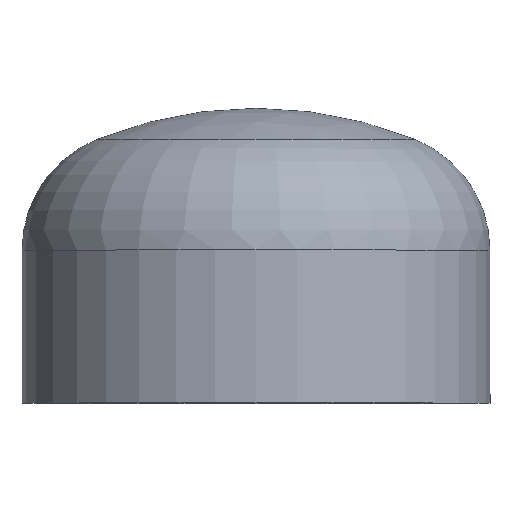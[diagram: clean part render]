
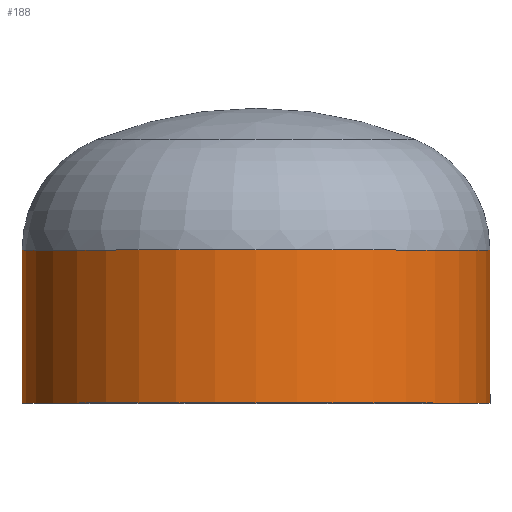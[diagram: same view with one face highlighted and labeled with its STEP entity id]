
A CAD part, top view. The second image highlights one B-rep face of the part: STEP entity #188.
In plain terms, the highlighted cylindrical face has radius 84.15 mm (diameter 168.3 mm), a partial arc.
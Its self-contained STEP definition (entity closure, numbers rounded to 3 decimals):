
#3 = EDGE_LOOP ( 'NONE', ( #118, #73, #372, #59 ) ) ;
#37 = AXIS2_PLACEMENT_3D ( 'NONE', #210, #367, #239 ) ;
#59 = ORIENTED_EDGE ( 'NONE', *, *, #394, .F. ) ;
#73 = ORIENTED_EDGE ( 'NONE', *, *, #171, .T. ) ;
#75 = VERTEX_POINT ( 'NONE', #278 ) ;
#103 = AXIS2_PLACEMENT_3D ( 'NONE', #274, #249, #246 ) ;
#112 = AXIS2_PLACEMENT_3D ( 'NONE', #384, #402, #316 ) ;
#118 = ORIENTED_EDGE ( 'NONE', *, *, #208, .T. ) ;
#126 = VERTEX_POINT ( 'NONE', #240 ) ;
#128 = VERTEX_POINT ( 'NONE', #238 ) ;
#171 = EDGE_CURVE ( 'NONE', #126, #295, #343, .T. ) ;
#181 = CIRCLE ( 'NONE', #37, 84.15 ) ;
#188 = ADVANCED_FACE ( 'NONE', ( #333 ), #324, .T. ) ;
#208 = EDGE_CURVE ( 'NONE', #75, #126, #212, .T. ) ;
#210 = CARTESIAN_POINT ( 'NONE',  ( 0., 0., 0. ) ) ;
#212 = CIRCLE ( 'NONE', #103, 84.15 ) ;
#215 = CARTESIAN_POINT ( 'NONE',  ( 84.15, 0., 0. ) ) ;
#229 = DIRECTION ( 'NONE',  ( 0., -1., 0. ) ) ;
#238 = CARTESIAN_POINT ( 'NONE',  ( 84.15, 0., 0. ) ) ;
#239 = DIRECTION ( 'NONE',  ( 1., 0., 0. ) ) ;
#240 = CARTESIAN_POINT ( 'NONE',  ( -84.15, 55., 0. ) ) ;
#246 = DIRECTION ( 'NONE',  ( 1., 0., 0. ) ) ;
#249 = DIRECTION ( 'NONE',  ( 0., -1., 0. ) ) ;
#274 = CARTESIAN_POINT ( 'NONE',  ( 0., 55., 0. ) ) ;
#278 = CARTESIAN_POINT ( 'NONE',  ( 84.15, 55., 0. ) ) ;
#286 = VECTOR ( 'NONE', #370, 1000. ) ;
#295 = VERTEX_POINT ( 'NONE', #408 ) ;
#316 = DIRECTION ( 'NONE',  ( 1., 0., 0. ) ) ;
#324 = CYLINDRICAL_SURFACE ( 'NONE', #112, 84.15 ) ;
#326 = CARTESIAN_POINT ( 'NONE',  ( -84.15, 0., 0. ) ) ;
#333 = FACE_OUTER_BOUND ( 'NONE', #3, .T. ) ;
#343 = LINE ( 'NONE', #326, #397 ) ;
#359 = EDGE_CURVE ( 'NONE', #128, #295, #181, .T. ) ;
#367 = DIRECTION ( 'NONE',  ( 0., -1., 0. ) ) ;
#370 = DIRECTION ( 'NONE',  ( 0., -1., 0. ) ) ;
#372 = ORIENTED_EDGE ( 'NONE', *, *, #359, .F. ) ;
#384 = CARTESIAN_POINT ( 'NONE',  ( 0., 0., 0. ) ) ;
#394 = EDGE_CURVE ( 'NONE', #75, #128, #400, .T. ) ;
#397 = VECTOR ( 'NONE', #229, 1000. ) ;
#400 = LINE ( 'NONE', #215, #286 ) ;
#402 = DIRECTION ( 'NONE',  ( 0., -1., 0. ) ) ;
#408 = CARTESIAN_POINT ( 'NONE',  ( -84.15, 0., 0. ) ) ;
